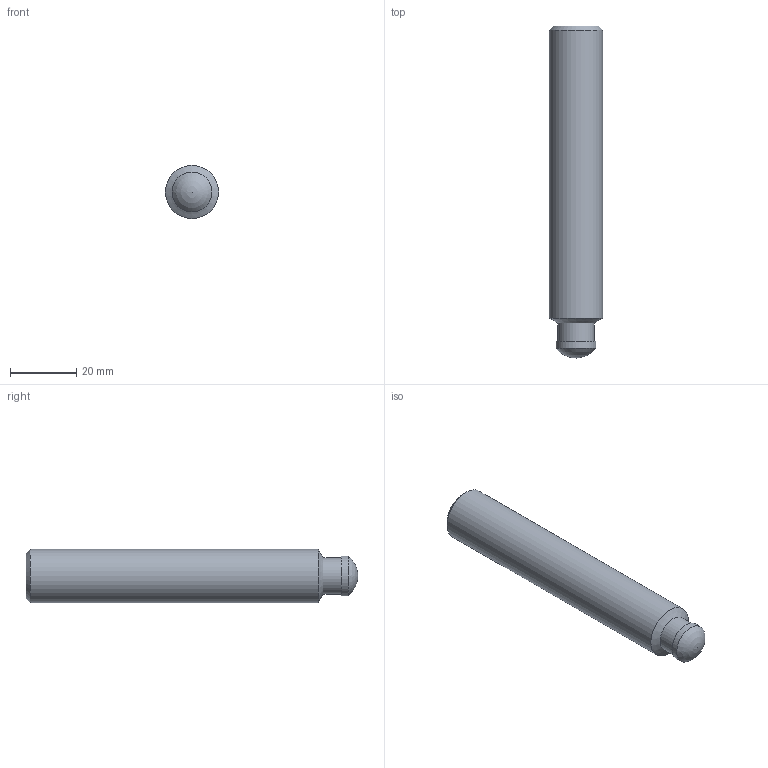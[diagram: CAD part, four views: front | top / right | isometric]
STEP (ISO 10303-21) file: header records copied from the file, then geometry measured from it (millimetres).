
FILE_DESCRIPTION( ( 'STEP AP203' ), '1' );
FILE_NAME( 'C:/Temp/Ganter_Step_05_03_2020/data/3_2/din6332/din6332/Grub screw DIN 6332-M16-100-SKN.stp', '2020-03-13T05:16:33', ( 'License CC BY-ND 4.0' ), ( 'CADENAS' ), ' ', 'PARTsolutions', ' ' );
FILE_SCHEMA( ( 'CONFIG_CONTROL_DESIGN' ) );
Length unit declared in the file: millimetre
Products named in the file (1): _Grub screw DIN 6332-M16-100-SKN
Bounding box: 16 x 100 x 16 mm (x, y, z)
Volume: 18555.1 mm3; surface area: 5260.3 mm2
Topology: 1 solids, 1 shells, 15 faces, 33 edges, 21 vertices
Faces by surface type: plane 9, cylinder 3, cone 2, sphere 1
Full cylindrical faces by diameter (mm): 11 x1, 12 x1, 16 x1
Entity records: 410 total; most frequent: DIRECTION 64, CARTESIAN_POINT 61, ORIENTED_EDGE 50, EDGE_CURVE 25, AXIS2_PLACEMENT_3D 23, EDGE_LOOP 22, VERTEX_POINT 20, FACE_OUTER_BOUND 18
